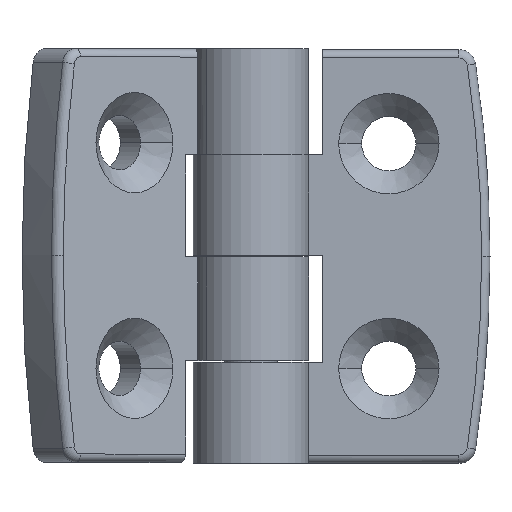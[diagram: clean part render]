
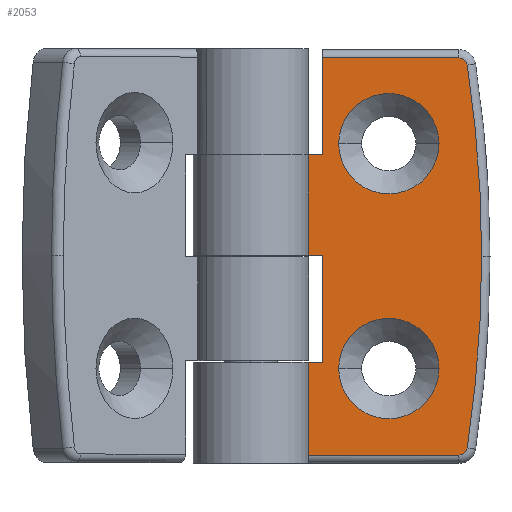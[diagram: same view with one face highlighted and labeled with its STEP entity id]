
A CAD part, top view. The second image highlights one B-rep face of the part: STEP entity #2053.
In plain terms, the highlighted planar face has unit normal (0, 0, 1).
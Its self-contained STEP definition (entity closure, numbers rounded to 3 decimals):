
#23 = AXIS2_PLACEMENT_3D ( 'NONE', #1528, #2377, #3350 ) ;
#80 = VERTEX_POINT ( 'NONE', #2056 ) ;
#99 = DIRECTION ( 'NONE',  ( 1., 0., 0. ) ) ;
#119 = DIRECTION ( 'NONE',  ( 1., 0., 0. ) ) ;
#161 = ORIENTED_EDGE ( 'NONE', *, *, #2394, .F. ) ;
#278 = DIRECTION ( 'NONE',  ( 0., 0., 1. ) ) ;
#308 = DIRECTION ( 'NONE',  ( -1., 0., 0. ) ) ;
#346 = DIRECTION ( 'NONE',  ( 0., 0., 1. ) ) ;
#401 = CARTESIAN_POINT ( 'NONE',  ( -142.041, -0.05, 3.25 ) ) ;
#413 = VERTEX_POINT ( 'NONE', #2405 ) ;
#438 = CARTESIAN_POINT ( 'NONE',  ( -7.9, -12.7, 3.25 ) ) ;
#468 = DIRECTION ( 'NONE',  ( 1., 0., 0. ) ) ;
#553 = VERTEX_POINT ( 'NONE', #4267 ) ;
#590 = VECTOR ( 'NONE', #3549, 1000. ) ;
#591 = VECTOR ( 'NONE', #3773, 1000. ) ;
#609 = CARTESIAN_POINT ( 'NONE',  ( -9.9, 24.7, 3.25 ) ) ;
#628 = EDGE_LOOP ( 'NONE', ( #2358, #4126 ) ) ;
#676 = ORIENTED_EDGE ( 'NONE', *, *, #6051, .F. ) ;
#865 = EDGE_CURVE ( 'NONE', #3797, #80, #2897, .T. ) ;
#948 = AXIS2_PLACEMENT_3D ( 'NONE', #1549, #5070, #4318 ) ;
#950 = DIRECTION ( 'NONE',  ( 0., 0., 1. ) ) ;
#988 = AXIS2_PLACEMENT_3D ( 'NONE', #5573, #2380, #99 ) ;
#991 = CARTESIAN_POINT ( 'NONE',  ( 6., -13.45, 3.25 ) ) ;
#1020 = VECTOR ( 'NONE', #119, 1000. ) ;
#1072 = CARTESIAN_POINT ( 'NONE',  ( 8.389, -22.8, 3.25 ) ) ;
#1078 = DIRECTION ( 'NONE',  ( 0., -1., 0. ) ) ;
#1139 = CIRCLE ( 'NONE', #5861, 153.141 ) ;
#1171 = CIRCLE ( 'NONE', #4953, 6. ) ;
#1211 = CARTESIAN_POINT ( 'NONE',  ( -7.9, 23.7, 3.25 ) ) ;
#1216 = LINE ( 'NONE', #3545, #3264 ) ;
#1238 = CIRCLE ( 'NONE', #4907, 153.141 ) ;
#1338 = VERTEX_POINT ( 'NONE', #6069 ) ;
#1382 = DIRECTION ( 'NONE',  ( 1., 0., 0. ) ) ;
#1398 = EDGE_CURVE ( 'NONE', #4700, #1338, #1238, .T. ) ;
#1399 = VECTOR ( 'NONE', #2090, 1000. ) ;
#1493 = LINE ( 'NONE', #2002, #3816 ) ;
#1499 = CARTESIAN_POINT ( 'NONE',  ( 9.378, -22.95, 3.25 ) ) ;
#1526 = CARTESIAN_POINT ( 'NONE',  ( -6., -13.45, 3.25 ) ) ;
#1528 = CARTESIAN_POINT ( 'NONE',  ( 8.389, 22.7, 3.25 ) ) ;
#1549 = CARTESIAN_POINT ( 'NONE',  ( 0., 13.45, 3.25 ) ) ;
#1634 = VERTEX_POINT ( 'NONE', #991 ) ;
#1643 = CIRCLE ( 'NONE', #2373, 6. ) ;
#1787 = LINE ( 'NONE', #609, #4123 ) ;
#1827 = LINE ( 'NONE', #3410, #591 ) ;
#1871 = EDGE_CURVE ( 'NONE', #3213, #553, #4963, .T. ) ;
#2002 = CARTESIAN_POINT ( 'NONE',  ( -7.9, -0.05, 3.25 ) ) ;
#2006 = ORIENTED_EDGE ( 'NONE', *, *, #2304, .T. ) ;
#2025 = PLANE ( 'NONE',  #5715 ) ;
#2053 = ADVANCED_FACE ( 'NONE', ( #3904, #5208, #5927 ), #2025, .T. ) ;
#2056 = CARTESIAN_POINT ( 'NONE',  ( 8.389, -23.8, 3.25 ) ) ;
#2086 = VERTEX_POINT ( 'NONE', #1211 ) ;
#2090 = DIRECTION ( 'NONE',  ( 0., -1., 0. ) ) ;
#2139 = ORIENTED_EDGE ( 'NONE', *, *, #3387, .T. ) ;
#2143 = ORIENTED_EDGE ( 'NONE', *, *, #3842, .T. ) ;
#2184 = ORIENTED_EDGE ( 'NONE', *, *, #3760, .T. ) ;
#2282 = CARTESIAN_POINT ( 'NONE',  ( 11.1, -0.05, 3.25 ) ) ;
#2304 = EDGE_CURVE ( 'NONE', #413, #2086, #1216, .T. ) ;
#2358 = ORIENTED_EDGE ( 'NONE', *, *, #5851, .F. ) ;
#2373 = AXIS2_PLACEMENT_3D ( 'NONE', #2529, #5379, #5802 ) ;
#2377 = DIRECTION ( 'NONE',  ( 0., 0., -1. ) ) ;
#2379 = ORIENTED_EDGE ( 'NONE', *, *, #3829, .T. ) ;
#2380 = DIRECTION ( 'NONE',  ( 0., 0., 1. ) ) ;
#2394 = EDGE_CURVE ( 'NONE', #3524, #3084, #5462, .T. ) ;
#2405 = CARTESIAN_POINT ( 'NONE',  ( 8.389, 23.7, 3.25 ) ) ;
#2421 = ORIENTED_EDGE ( 'NONE', *, *, #5639, .T. ) ;
#2428 = ORIENTED_EDGE ( 'NONE', *, *, #5995, .T. ) ;
#2486 = CARTESIAN_POINT ( 'NONE',  ( -142.041, 12.1, 3.25 ) ) ;
#2529 = CARTESIAN_POINT ( 'NONE',  ( 0., -13.45, 3.25 ) ) ;
#2757 = DIRECTION ( 'NONE',  ( 1., 0., 0. ) ) ;
#2806 = VERTEX_POINT ( 'NONE', #3515 ) ;
#2811 = ORIENTED_EDGE ( 'NONE', *, *, #1398, .T. ) ;
#2816 = DIRECTION ( 'NONE',  ( 0., 0., -1. ) ) ;
#2897 = LINE ( 'NONE', #3888, #5435 ) ;
#2926 = CARTESIAN_POINT ( 'NONE',  ( -9.9, -23.8, 3.25 ) ) ;
#3017 = LINE ( 'NONE', #2486, #590 ) ;
#3084 = VERTEX_POINT ( 'NONE', #438 ) ;
#3103 = VERTEX_POINT ( 'NONE', #1526 ) ;
#3159 = EDGE_CURVE ( 'NONE', #3524, #3797, #5811, .T. ) ;
#3213 = VERTEX_POINT ( 'NONE', #3473 ) ;
#3239 = DIRECTION ( 'NONE',  ( 1., 0., 0. ) ) ;
#3245 = EDGE_CURVE ( 'NONE', #3518, #3327, #3017, .T. ) ;
#3264 = VECTOR ( 'NONE', #308, 1000. ) ;
#3267 = CARTESIAN_POINT ( 'NONE',  ( -7.9, 12.1, 3.25 ) ) ;
#3271 = CARTESIAN_POINT ( 'NONE',  ( 0., -13.45, 3.25 ) ) ;
#3327 = VERTEX_POINT ( 'NONE', #3267 ) ;
#3343 = DIRECTION ( 'NONE',  ( 0., 0., -1. ) ) ;
#3350 = DIRECTION ( 'NONE',  ( 1., 0., 0. ) ) ;
#3387 = EDGE_CURVE ( 'NONE', #3103, #1634, #1171, .T. ) ;
#3410 = CARTESIAN_POINT ( 'NONE',  ( -7.9, -0.05, 3.25 ) ) ;
#3420 = DIRECTION ( 'NONE',  ( 0., -1., 0. ) ) ;
#3431 = CIRCLE ( 'NONE', #988, 6. ) ;
#3473 = CARTESIAN_POINT ( 'NONE',  ( -6., 13.45, 3.25 ) ) ;
#3491 = LINE ( 'NONE', #4887, #1020 ) ;
#3515 = CARTESIAN_POINT ( 'NONE',  ( -9.9, 0.1, 3.25 ) ) ;
#3518 = VERTEX_POINT ( 'NONE', #5209 ) ;
#3524 = VERTEX_POINT ( 'NONE', #5345 ) ;
#3545 = CARTESIAN_POINT ( 'NONE',  ( -7.9, 23.7, 3.25 ) ) ;
#3549 = DIRECTION ( 'NONE',  ( 1., 0., 0. ) ) ;
#3685 = EDGE_CURVE ( 'NONE', #4367, #4700, #1139, .T. ) ;
#3734 = VECTOR ( 'NONE', #1382, 1000. ) ;
#3760 = EDGE_CURVE ( 'NONE', #3518, #2806, #1787, .T. ) ;
#3773 = DIRECTION ( 'NONE',  ( 0., -1., 0. ) ) ;
#3797 = VERTEX_POINT ( 'NONE', #2926 ) ;
#3816 = VECTOR ( 'NONE', #3420, 1000. ) ;
#3829 = EDGE_CURVE ( 'NONE', #1634, #3103, #1643, .T. ) ;
#3842 = EDGE_CURVE ( 'NONE', #4111, #3084, #1493, .T. ) ;
#3853 = EDGE_LOOP ( 'NONE', ( #2379, #2139 ) ) ;
#3888 = CARTESIAN_POINT ( 'NONE',  ( 10.1, -23.8, 3.25 ) ) ;
#3904 = FACE_BOUND ( 'NONE', #3853, .T. ) ;
#4111 = VERTEX_POINT ( 'NONE', #5118 ) ;
#4123 = VECTOR ( 'NONE', #1078, 1000. ) ;
#4126 = ORIENTED_EDGE ( 'NONE', *, *, #1871, .F. ) ;
#4201 = ORIENTED_EDGE ( 'NONE', *, *, #5221, .F. ) ;
#4267 = CARTESIAN_POINT ( 'NONE',  ( 6., 13.45, 3.25 ) ) ;
#4287 = AXIS2_PLACEMENT_3D ( 'NONE', #1072, #2816, #5562 ) ;
#4312 = DIRECTION ( 'NONE',  ( 1., 0., 0. ) ) ;
#4318 = DIRECTION ( 'NONE',  ( 1., 0., 0. ) ) ;
#4367 = VERTEX_POINT ( 'NONE', #1499 ) ;
#4449 = CIRCLE ( 'NONE', #4287, 1. ) ;
#4485 = ORIENTED_EDGE ( 'NONE', *, *, #3685, .T. ) ;
#4498 = CARTESIAN_POINT ( 'NONE',  ( -142.041, -12.7, 3.25 ) ) ;
#4667 = CARTESIAN_POINT ( 'NONE',  ( -9.9, 24.7, 3.25 ) ) ;
#4700 = VERTEX_POINT ( 'NONE', #2282 ) ;
#4762 = CIRCLE ( 'NONE', #23, 1. ) ;
#4808 = EDGE_LOOP ( 'NONE', ( #676, #4485, #2811, #4201, #2006, #2421, #5718, #2184, #2428, #2143, #161, #4956, #5098 ) ) ;
#4887 = CARTESIAN_POINT ( 'NONE',  ( -142.041, 0.1, 3.25 ) ) ;
#4907 = AXIS2_PLACEMENT_3D ( 'NONE', #5286, #950, #4989 ) ;
#4953 = AXIS2_PLACEMENT_3D ( 'NONE', #3271, #3343, #2757 ) ;
#4956 = ORIENTED_EDGE ( 'NONE', *, *, #3159, .T. ) ;
#4963 = CIRCLE ( 'NONE', #948, 6. ) ;
#4989 = DIRECTION ( 'NONE',  ( 1., 0., 0. ) ) ;
#5070 = DIRECTION ( 'NONE',  ( 0., 0., 1. ) ) ;
#5098 = ORIENTED_EDGE ( 'NONE', *, *, #865, .T. ) ;
#5118 = CARTESIAN_POINT ( 'NONE',  ( -7.9, 0.1, 3.25 ) ) ;
#5208 = FACE_BOUND ( 'NONE', #628, .T. ) ;
#5209 = CARTESIAN_POINT ( 'NONE',  ( -9.9, 12.1, 3.25 ) ) ;
#5221 = EDGE_CURVE ( 'NONE', #413, #1338, #4762, .T. ) ;
#5286 = CARTESIAN_POINT ( 'NONE',  ( -142.041, -0.05, 3.25 ) ) ;
#5345 = CARTESIAN_POINT ( 'NONE',  ( -9.9, -12.7, 3.25 ) ) ;
#5379 = DIRECTION ( 'NONE',  ( 0., 0., -1. ) ) ;
#5435 = VECTOR ( 'NONE', #3239, 1000. ) ;
#5462 = LINE ( 'NONE', #4498, #3734 ) ;
#5562 = DIRECTION ( 'NONE',  ( 1., 0., 0. ) ) ;
#5573 = CARTESIAN_POINT ( 'NONE',  ( 0., 13.45, 3.25 ) ) ;
#5639 = EDGE_CURVE ( 'NONE', #2086, #3327, #1827, .T. ) ;
#5715 = AXIS2_PLACEMENT_3D ( 'NONE', #401, #278, #468 ) ;
#5718 = ORIENTED_EDGE ( 'NONE', *, *, #3245, .F. ) ;
#5802 = DIRECTION ( 'NONE',  ( 1., 0., 0. ) ) ;
#5811 = LINE ( 'NONE', #4667, #1399 ) ;
#5851 = EDGE_CURVE ( 'NONE', #553, #3213, #3431, .T. ) ;
#5861 = AXIS2_PLACEMENT_3D ( 'NONE', #6003, #346, #4312 ) ;
#5927 = FACE_OUTER_BOUND ( 'NONE', #4808, .T. ) ;
#5995 = EDGE_CURVE ( 'NONE', #2806, #4111, #3491, .T. ) ;
#6003 = CARTESIAN_POINT ( 'NONE',  ( -142.041, -0.05, 3.25 ) ) ;
#6051 = EDGE_CURVE ( 'NONE', #4367, #80, #4449, .T. ) ;
#6069 = CARTESIAN_POINT ( 'NONE',  ( 9.378, 22.85, 3.25 ) ) ;
